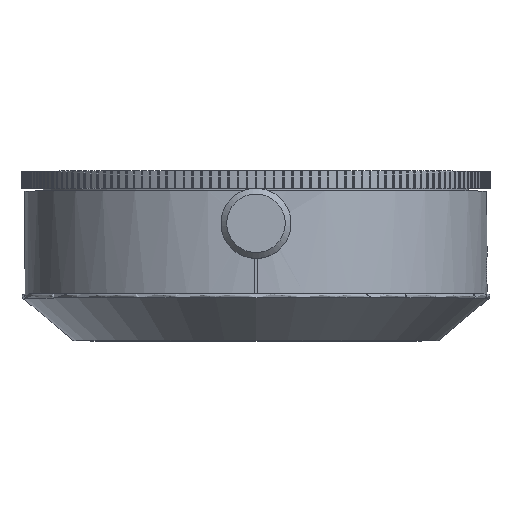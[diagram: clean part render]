
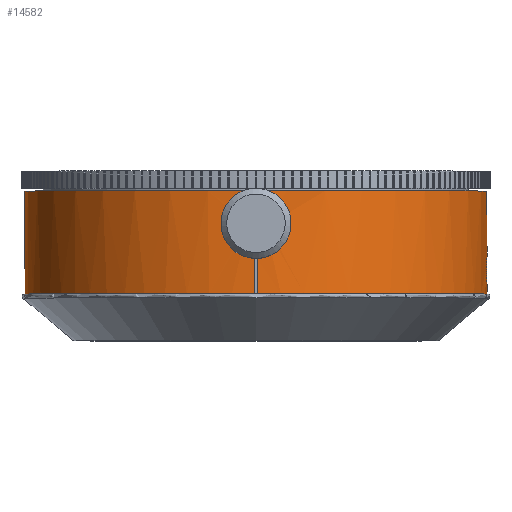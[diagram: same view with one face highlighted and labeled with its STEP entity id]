
A CAD part, top view. The second image highlights one B-rep face of the part: STEP entity #14582.
In plain terms, the highlighted cylindrical face has radius 19.75 mm (diameter 39.5 mm), a partial arc.
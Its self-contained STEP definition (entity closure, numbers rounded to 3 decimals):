
#17=B_SPLINE_CURVE_WITH_KNOTS('',3,(#23783,#23784,#23785,#23786,#23787,
#23788,#23789,#23790,#23791,#23792,#23793,#23794,#23795,#23796,#23797,#23798,
#23799,#23800),.UNSPECIFIED.,.F.,.F.,(4,2,2,2,2,2,2,2,4),(0.188,
0.235,0.283,0.33,0.377,
0.424,0.471,0.518,0.565),
 .UNSPECIFIED.);
#18=B_SPLINE_CURVE_WITH_KNOTS('',3,(#23801,#23802,#23803,#23804,#23805,
#23806,#23807,#23808,#23809,#23810,#23811,#23812,#23813,#23814,#23815,#23816,
#23817,#23818,#23819),.UNSPECIFIED.,.F.,.F.,(4,2,2,2,3,2,2,2,4),(0.565,
0.612,0.659,0.706,0.754,
0.801,0.848,0.895,0.942),
 .UNSPECIFIED.);
#19=B_SPLINE_CURVE_WITH_KNOTS('',3,(#23838,#23839,#23840,#23841,#23842,
#23843,#23844,#23845,#23846,#23847,#23848,#23849,#23850,#23851,#23852,#23853,
#23854,#23855,#23856,#23857,#23858,#23859,#23860,#23861,#23862,#23863,#23864,
#23865,#23866,#23867,#23868,#23869,#23870,#23871),.UNSPECIFIED.,.T.,.F.,
(4,2,2,2,2,2,2,2,2,2,2,2,2,2,2,2,4),(0.,0.038,0.075,
0.113,0.151,0.188,0.226,
0.264,0.301,0.339,0.377,
0.414,0.452,0.49,0.527,0.565,
0.603),.UNSPECIFIED.);
#1635=LINE('',#23823,#3310);
#1636=LINE('',#23827,#3311);
#1637=LINE('',#23831,#3312);
#1638=LINE('',#23835,#3313);
#3310=VECTOR('',#19465,3.);
#3311=VECTOR('',#19468,8.8);
#3312=VECTOR('',#19471,8.8);
#3313=VECTOR('',#19474,3.);
#3567=CYLINDRICAL_SURFACE('',#15686,19.75);
#3616=FACE_BOUND('',#5110,.T.);
#3617=FACE_BOUND('',#5111,.T.);
#4336=FACE_OUTER_BOUND('',#5109,.T.);
#5109=EDGE_LOOP('',(#12429,#12430,#12431,#12432,#12433,#12434,#12435,#12436));
#5110=EDGE_LOOP('',(#12437));
#5111=EDGE_LOOP('',(#12438,#12439));
#5592=CIRCLE('',#15687,19.75);
#5593=CIRCLE('',#15688,19.75);
#5594=CIRCLE('',#15689,19.75);
#5595=CIRCLE('',#15690,19.75);
#6965=VERTEX_POINT('',#23781);
#6966=VERTEX_POINT('',#23782);
#6967=VERTEX_POINT('',#23821);
#6968=VERTEX_POINT('',#23822);
#6969=VERTEX_POINT('',#23824);
#6970=VERTEX_POINT('',#23826);
#6971=VERTEX_POINT('',#23828);
#6972=VERTEX_POINT('',#23830);
#6973=VERTEX_POINT('',#23832);
#6974=VERTEX_POINT('',#23834);
#6975=VERTEX_POINT('',#23837);
#9027=EDGE_CURVE('',#6965,#6966,#17,.T.);
#9028=EDGE_CURVE('',#6966,#6965,#18,.T.);
#9029=EDGE_CURVE('',#6967,#6968,#1635,.T.);
#9030=EDGE_CURVE('',#6968,#6969,#5592,.T.);
#9031=EDGE_CURVE('',#6970,#6969,#1636,.T.);
#9032=EDGE_CURVE('',#6970,#6971,#5593,.T.);
#9033=EDGE_CURVE('',#6972,#6971,#1637,.T.);
#9034=EDGE_CURVE('',#6972,#6973,#5594,.T.);
#9035=EDGE_CURVE('',#6973,#6974,#1638,.T.);
#9036=EDGE_CURVE('',#6974,#6967,#5595,.T.);
#9037=EDGE_CURVE('',#6975,#6975,#19,.T.);
#12429=ORIENTED_EDGE('',*,*,#9029,.T.);
#12430=ORIENTED_EDGE('',*,*,#9030,.T.);
#12431=ORIENTED_EDGE('',*,*,#9031,.F.);
#12432=ORIENTED_EDGE('',*,*,#9032,.T.);
#12433=ORIENTED_EDGE('',*,*,#9033,.F.);
#12434=ORIENTED_EDGE('',*,*,#9034,.T.);
#12435=ORIENTED_EDGE('',*,*,#9035,.T.);
#12436=ORIENTED_EDGE('',*,*,#9036,.T.);
#12437=ORIENTED_EDGE('',*,*,#9037,.T.);
#12438=ORIENTED_EDGE('',*,*,#9027,.T.);
#12439=ORIENTED_EDGE('',*,*,#9028,.T.);
#14582=ADVANCED_FACE('',(#4336,#3616,#3617),#3567,.T.);
#15686=AXIS2_PLACEMENT_3D('',#23820,#19463,#19464);
#15687=AXIS2_PLACEMENT_3D('',#23825,#19466,#19467);
#15688=AXIS2_PLACEMENT_3D('',#23829,#19469,#19470);
#15689=AXIS2_PLACEMENT_3D('',#23833,#19472,#19473);
#15690=AXIS2_PLACEMENT_3D('',#23836,#19475,#19476);
#19463=DIRECTION('center_axis',(0.,1.,0.));
#19464=DIRECTION('ref_axis',(0.854,0.,0.52));
#19465=DIRECTION('',(0.,-1.,0.));
#19466=DIRECTION('center_axis',(0.,1.,0.));
#19467=DIRECTION('ref_axis',(0.854,0.,0.52));
#19468=DIRECTION('',(0.,-1.,0.));
#19469=DIRECTION('center_axis',(0.,-1.,0.));
#19470=DIRECTION('ref_axis',(0.854,0.,0.52));
#19471=DIRECTION('',(0.,1.,0.));
#19472=DIRECTION('center_axis',(0.,1.,0.));
#19473=DIRECTION('ref_axis',(0.854,0.,0.52));
#19474=DIRECTION('',(0.,1.,0.));
#19475=DIRECTION('center_axis',(0.,1.,0.));
#19476=DIRECTION('ref_axis',(0.854,0.,0.52));
#23781=CARTESIAN_POINT('',(19.75,5.25,0.));
#23782=CARTESIAN_POINT('',(19.75,2.75,0.));
#23783=CARTESIAN_POINT('Ctrl Pts',(19.75,5.25,0.));
#23784=CARTESIAN_POINT('Ctrl Pts',(19.75,5.25,-0.157));
#23785=CARTESIAN_POINT('Ctrl Pts',(19.748,5.219,-0.324));
#23786=CARTESIAN_POINT('Ctrl Pts',(19.74,5.091,-0.632));
#23787=CARTESIAN_POINT('Ctrl Pts',(19.735,4.995,-0.773));
#23788=CARTESIAN_POINT('Ctrl Pts',(19.725,4.773,-0.995));
#23789=CARTESIAN_POINT('Ctrl Pts',(19.72,4.632,-1.091));
#23790=CARTESIAN_POINT('Ctrl Pts',(19.712,4.324,-1.219));
#23791=CARTESIAN_POINT('Ctrl Pts',(19.71,4.157,-1.25));
#23792=CARTESIAN_POINT('Ctrl Pts',(19.71,3.843,-1.25));
#23793=CARTESIAN_POINT('Ctrl Pts',(19.712,3.676,-1.219));
#23794=CARTESIAN_POINT('Ctrl Pts',(19.72,3.368,-1.091));
#23795=CARTESIAN_POINT('Ctrl Pts',(19.725,3.227,-0.995));
#23796=CARTESIAN_POINT('Ctrl Pts',(19.735,3.005,-0.773));
#23797=CARTESIAN_POINT('Ctrl Pts',(19.74,2.909,-0.632));
#23798=CARTESIAN_POINT('Ctrl Pts',(19.748,2.781,-0.324));
#23799=CARTESIAN_POINT('Ctrl Pts',(19.75,2.75,-0.157));
#23800=CARTESIAN_POINT('Ctrl Pts',(19.75,2.75,0.));
#23801=CARTESIAN_POINT('Ctrl Pts',(19.75,2.75,0.));
#23802=CARTESIAN_POINT('Ctrl Pts',(19.75,2.75,0.157));
#23803=CARTESIAN_POINT('Ctrl Pts',(19.748,2.781,0.324));
#23804=CARTESIAN_POINT('Ctrl Pts',(19.74,2.909,0.632));
#23805=CARTESIAN_POINT('Ctrl Pts',(19.735,3.005,0.773));
#23806=CARTESIAN_POINT('Ctrl Pts',(19.725,3.227,0.995));
#23807=CARTESIAN_POINT('Ctrl Pts',(19.72,3.368,1.091));
#23808=CARTESIAN_POINT('Ctrl Pts',(19.712,3.676,1.219));
#23809=CARTESIAN_POINT('Ctrl Pts',(19.71,3.843,1.25));
#23810=CARTESIAN_POINT('Ctrl Pts',(19.71,4.,1.25));
#23811=CARTESIAN_POINT('Ctrl Pts',(19.71,4.157,1.25));
#23812=CARTESIAN_POINT('Ctrl Pts',(19.712,4.324,1.219));
#23813=CARTESIAN_POINT('Ctrl Pts',(19.72,4.632,1.091));
#23814=CARTESIAN_POINT('Ctrl Pts',(19.725,4.773,0.995));
#23815=CARTESIAN_POINT('Ctrl Pts',(19.735,4.995,0.773));
#23816=CARTESIAN_POINT('Ctrl Pts',(19.74,5.091,0.632));
#23817=CARTESIAN_POINT('Ctrl Pts',(19.748,5.219,0.324));
#23818=CARTESIAN_POINT('Ctrl Pts',(19.75,5.25,0.157));
#23819=CARTESIAN_POINT('Ctrl Pts',(19.75,5.25,0.));
#23820=CARTESIAN_POINT('Origin',(0.,0.,0.));
#23821=CARTESIAN_POINT('',(0.1,5.,19.75));
#23822=CARTESIAN_POINT('',(0.1,2.,19.75));
#23823=CARTESIAN_POINT('',(0.1,0.,19.75));
#23824=CARTESIAN_POINT('',(18.99,2.,-5.426));
#23825=CARTESIAN_POINT('Origin',(0.,2.,0.));
#23826=CARTESIAN_POINT('',(18.99,10.8,-5.426));
#23827=CARTESIAN_POINT('',(18.99,0.,-5.426));
#23828=CARTESIAN_POINT('',(-17.073,10.8,-9.928));
#23829=CARTESIAN_POINT('Origin',(0.,10.8,0.));
#23830=CARTESIAN_POINT('',(-17.073,2.,-9.928));
#23831=CARTESIAN_POINT('',(-17.073,0.,-9.928));
#23832=CARTESIAN_POINT('',(-0.1,2.,19.75));
#23833=CARTESIAN_POINT('Origin',(0.,2.,0.));
#23834=CARTESIAN_POINT('',(-0.1,5.,19.75));
#23835=CARTESIAN_POINT('',(-0.1,0.,19.75));
#23836=CARTESIAN_POINT('Origin',(0.,5.,0.));
#23837=CARTESIAN_POINT('',(1.,8.,19.725));
#23838=CARTESIAN_POINT('Ctrl Pts',(1.,8.,19.725));
#23839=CARTESIAN_POINT('Ctrl Pts',(1.,7.874,19.725));
#23840=CARTESIAN_POINT('Ctrl Pts',(0.975,7.74,19.726));
#23841=CARTESIAN_POINT('Ctrl Pts',(0.873,7.494,19.731));
#23842=CARTESIAN_POINT('Ctrl Pts',(0.796,7.382,19.734));
#23843=CARTESIAN_POINT('Ctrl Pts',(0.618,7.204,19.741));
#23844=CARTESIAN_POINT('Ctrl Pts',(0.506,7.127,19.744));
#23845=CARTESIAN_POINT('Ctrl Pts',(0.26,7.025,19.749));
#23846=CARTESIAN_POINT('Ctrl Pts',(0.126,7.,19.75));
#23847=CARTESIAN_POINT('Ctrl Pts',(-0.126,7.,19.75));
#23848=CARTESIAN_POINT('Ctrl Pts',(-0.26,7.025,
19.749));
#23849=CARTESIAN_POINT('Ctrl Pts',(-0.506,7.127,19.744));
#23850=CARTESIAN_POINT('Ctrl Pts',(-0.618,7.204,
19.741));
#23851=CARTESIAN_POINT('Ctrl Pts',(-0.796,7.382,
19.734));
#23852=CARTESIAN_POINT('Ctrl Pts',(-0.873,7.494,
19.731));
#23853=CARTESIAN_POINT('Ctrl Pts',(-0.975,7.74,
19.726));
#23854=CARTESIAN_POINT('Ctrl Pts',(-1.,7.874,19.725));
#23855=CARTESIAN_POINT('Ctrl Pts',(-1.,8.126,19.725));
#23856=CARTESIAN_POINT('Ctrl Pts',(-0.975,8.26,
19.726));
#23857=CARTESIAN_POINT('Ctrl Pts',(-0.873,8.506,
19.731));
#23858=CARTESIAN_POINT('Ctrl Pts',(-0.796,8.618,
19.734));
#23859=CARTESIAN_POINT('Ctrl Pts',(-0.618,8.796,
19.741));
#23860=CARTESIAN_POINT('Ctrl Pts',(-0.506,8.873,
19.744));
#23861=CARTESIAN_POINT('Ctrl Pts',(-0.26,8.975,
19.749));
#23862=CARTESIAN_POINT('Ctrl Pts',(-0.126,9.,19.75));
#23863=CARTESIAN_POINT('Ctrl Pts',(0.126,9.,19.75));
#23864=CARTESIAN_POINT('Ctrl Pts',(0.26,8.975,19.749));
#23865=CARTESIAN_POINT('Ctrl Pts',(0.506,8.873,19.744));
#23866=CARTESIAN_POINT('Ctrl Pts',(0.618,8.796,19.741));
#23867=CARTESIAN_POINT('Ctrl Pts',(0.796,8.618,19.734));
#23868=CARTESIAN_POINT('Ctrl Pts',(0.873,8.506,19.731));
#23869=CARTESIAN_POINT('Ctrl Pts',(0.975,8.26,19.726));
#23870=CARTESIAN_POINT('Ctrl Pts',(1.,8.126,19.725));
#23871=CARTESIAN_POINT('Ctrl Pts',(1.,8.,19.725));
